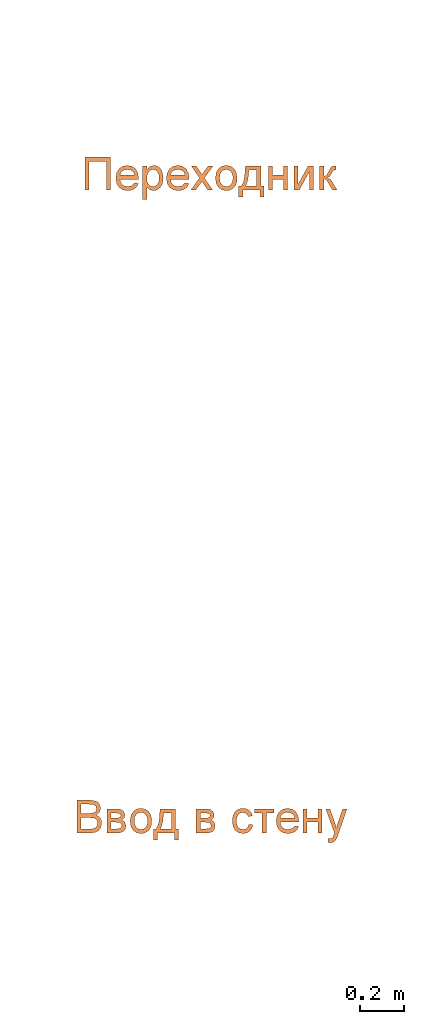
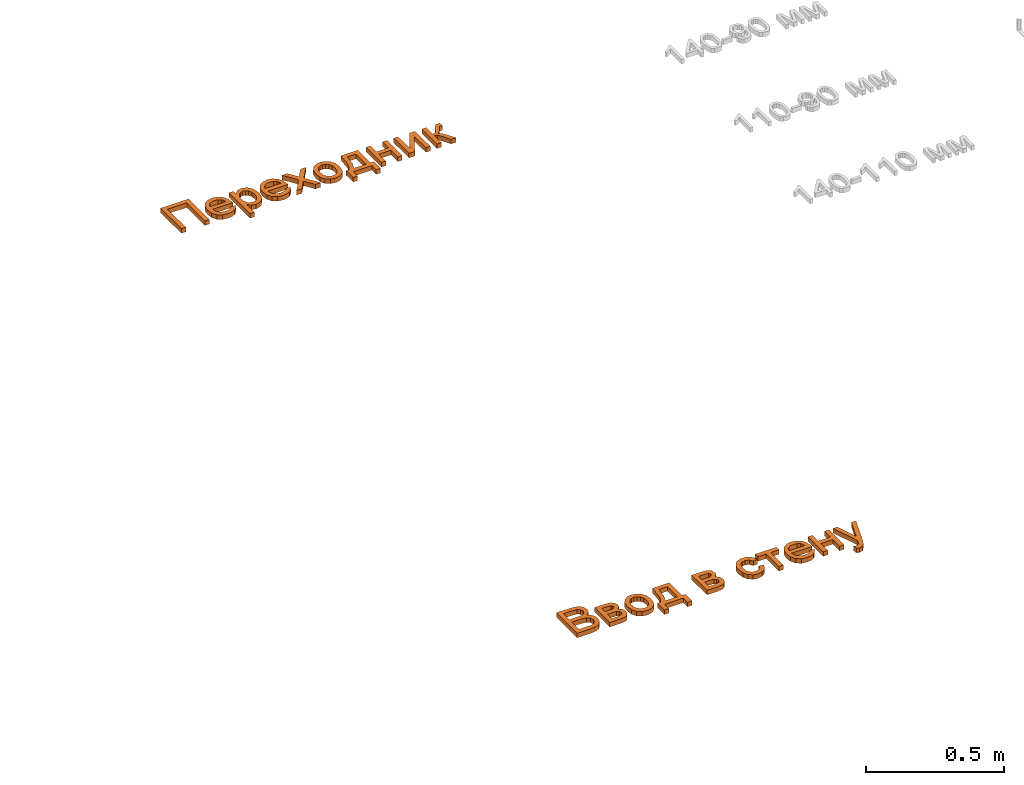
# One storey, part 21 of 87: 2 proxies.
"""IFC2X3 building model written with IfcOpenShell, lengths in millimetres."""

from ifc_helpers import new_model, entity, si_unit, converted_unit, derived_unit, direction, frame, origin, place, context, subcontext, project, spatial, polyline, outline, extrude, element, save


model = new_model("IFC2X3")

# Units and contexts
model_context = context("Model", 3, precision=0.01, world=origin(), true_north=direction((6.12303176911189e-17, 1.0)))
body_context = subcontext(model_context, "Body", "Model", "MODEL_VIEW")
ifc_project = project(units=[si_unit("LENGTHUNIT", "METRE", prefix="MILLI"), si_unit("AREAUNIT", "SQUARE_METRE"), si_unit("VOLUMEUNIT", "CUBIC_METRE"), converted_unit("PLANEANGLEUNIT", "DEGREE", entity("IfcRatioMeasure", 0.0174532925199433), si_unit("PLANEANGLEUNIT", "RADIAN"), dimensions=[0, 0, 0, 0, 0, 0, 0]), si_unit("MASSUNIT", "GRAM", prefix="KILO"), derived_unit("MASSDENSITYUNIT", [(si_unit("MASSUNIT", "GRAM", prefix="KILO"), 1), (si_unit("LENGTHUNIT", "METRE"), -3)]), si_unit("TIMEUNIT", "SECOND"), si_unit("FREQUENCYUNIT", "HERTZ"), si_unit("THERMODYNAMICTEMPERATUREUNIT", "DEGREE_CELSIUS"), derived_unit("THERMALTRANSMITTANCEUNIT", [(si_unit("MASSUNIT", "GRAM", prefix="KILO"), 1), (si_unit("THERMODYNAMICTEMPERATUREUNIT", "KELVIN"), -1), (si_unit("TIMEUNIT", "SECOND"), -3)]), derived_unit("VOLUMETRICFLOWRATEUNIT", [(si_unit("LENGTHUNIT", "METRE"), 3), (si_unit("TIMEUNIT", "SECOND"), -1)]), si_unit("ELECTRICCURRENTUNIT", "AMPERE"), si_unit("ELECTRICVOLTAGEUNIT", "VOLT"), si_unit("POWERUNIT", "WATT"), si_unit("FORCEUNIT", "NEWTON", prefix="KILO"), si_unit("ILLUMINANCEUNIT", "LUX"), si_unit("LUMINOUSFLUXUNIT", "LUMEN"), si_unit("LUMINOUSINTENSITYUNIT", "CANDELA"), derived_unit("USERDEFINED", [(si_unit("MASSUNIT", "GRAM", prefix="KILO"), -1), (si_unit("LENGTHUNIT", "METRE"), -2), (si_unit("TIMEUNIT", "SECOND"), 3), (si_unit("LUMINOUSFLUXUNIT", "LUMEN"), 1)]), derived_unit("LINEARVELOCITYUNIT", [(si_unit("LENGTHUNIT", "METRE"), 1), (si_unit("TIMEUNIT", "SECOND"), -1)]), si_unit("PRESSUREUNIT", "PASCAL"), derived_unit("USERDEFINED", [(si_unit("LENGTHUNIT", "METRE"), -2), (si_unit("MASSUNIT", "GRAM", prefix="KILO"), 1), (si_unit("TIMEUNIT", "SECOND"), -2)])], contexts=[model_context])

# Site, building, storey
site_placement = place(None, origin())
site = spatial("IfcSite", under=ifc_project, at=site_placement, Name="Default", CompositionType="ELEMENT")
building_placement = place(site_placement, origin())
building = spatial("IfcBuilding", under=site, at=building_placement, Name="Наименование здания", CompositionType="ELEMENT")
storey_placement = place(building_placement, origin())
storey = spatial("IfcBuildingStorey", under=building, at=storey_placement, Name="Этаж 01", CompositionType="ELEMENT", Elevation=0.0)

# Proxies
proxy_1_placement = place(storey_placement, origin())
element("IfcBuildingElementProxy", 1, at=proxy_1_placement, inside=storey, Name="Текст модели:150 мм Arial", ObjectType="Текст модели:150 мм Arial", context=body_context, shape_type="SweptSolid", body=[
    extrude(outline(polyline([(-80.0511221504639, -58.8611192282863), (70.6333430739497, -58.8611192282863), (70.6333430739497, -40.0255610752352), (-61.2155639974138, -40.0255610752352), (-61.2155639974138, 40.0255610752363), (70.6333430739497, 40.0255610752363), (70.6333430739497, 58.8611192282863), (-80.0511221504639, 58.8611192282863), (-80.0511221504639, -58.8611192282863)])), frame((9730.96561455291, -29155.4056663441, 0.0), z_axis=(0.0, 0.0, 1.0), x_axis=(0.0, -1.0, 0.0)), (0.0, 0.0, 1.0), 20.0),
    extrude(outline(polyline([(-12.151923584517, -30.5627594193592), (-23.3028322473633, -45.4710024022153), (-8.67600558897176, -50.3662606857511), (6.18277634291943, -49.9698260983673), (20.8164252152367, -44.1721168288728), (34.7678526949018, -32.8635510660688), (47.4570640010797, -14.3885693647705), (51.2430729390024, 5.61202992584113), (45.9060763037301, 25.8663302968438), (31.2262708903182, 45.1024152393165), (10.9154740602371, 59.6770093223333), (-9.99269287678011, 64.6676720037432), (-29.9463894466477, 60.6331852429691), (-47.3937751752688, 48.1323309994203), (-58.8653278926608, 30.7635073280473), (-61.9660241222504, 11.0147969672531), (-56.1560561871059, -9.52443743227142), (-40.8956164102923, -29.2648332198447), (-37.1706876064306, -32.7160206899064), (21.6964908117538, 28.1133970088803), (29.5607979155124, 15.9656989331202), (31.7422008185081, 3.31507577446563), (28.720812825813, -8.97205129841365), (20.9767472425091, -20.0292611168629), (5.30526907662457, -30.5627594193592), (-12.151923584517, -30.5627594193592)]), holes=[polyline([(8.16121838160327, 41.2120477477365), (-37.6840592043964, -6.16140575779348), (-43.0633748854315, 2.58957596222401), (-44.7058228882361, 11.1286426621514), (-41.8277013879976, 23.6248066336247), (-33.8073361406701, 35.0865524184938), (-23.712271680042, 42.9855035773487), (-12.6145549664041, 46.855297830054), (-1.62109020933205, 46.3720932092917), (8.16121838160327, 41.2120477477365)])]), frame((9867.49729154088, -29180.5551831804, 0.0), z_axis=(0.0, 0.0, -1.0), x_axis=(-0.695421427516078, -0.718602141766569, 0.0)), (0.0, 0.0, -1.0), 20.0),
    extrude(outline(polyline([(-51.3898957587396, -92.550372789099), (-32.5543376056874, -92.550372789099), (-32.5543376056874, -35.4550871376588), (-20.616566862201, -47.687163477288), (-4.22742397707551, -52.5248117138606), (7.98165973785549, -50.717591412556), (19.5929352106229, -45.2959305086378), (29.562537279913, -36.4851567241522), (36.8466007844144, -24.5105977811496), (41.3025714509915, -10.1034191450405), (42.7878950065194, 6.00521371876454), (37.5271824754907, 35.0311031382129), (30.9972770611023, 46.7849328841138), (21.9289858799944, 55.5589184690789), (10.7913584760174, 61.0219660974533), (-1.94655560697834, 62.8429819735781), (-19.531314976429, 57.6374517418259), (-32.5543376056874, 42.0208610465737), (-32.5543376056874, 60.4885372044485), (-51.3898957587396, 60.4885372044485), (-51.3898957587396, -92.550372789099)]), holes=[polyline([(-32.5543376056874, 4.27616834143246), (-30.3792353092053, 21.3596884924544), (-23.853928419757, 33.83548665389), (-14.5051272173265, 41.4644395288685), (-3.85954198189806, 44.0074238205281), (6.74465652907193, 41.6161908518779), (15.7485683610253, 34.4424919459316), (21.9013947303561, 22.4679330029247), (23.9523368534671, 5.67411992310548), (21.8508109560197, -11.8462600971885), (15.5462332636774, -24.0875334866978), (6.29859960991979, -31.2888235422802), (-4.63209417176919, -33.6892535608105), (-15.3880440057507, -31.3715969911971), (-24.4057514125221, -24.4186272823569), (-30.5171910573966, -12.6096152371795), (-32.5543376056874, 4.27616834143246)])]), frame((9987.19220522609, -29175.8686424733, 0.0)), (0.0, 0.0, 1.0), 20.0),
    extrude(outline(polyline([(-12.151923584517, -30.5627594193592), (-23.3028322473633, -45.4710024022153), (-8.67600558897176, -50.3662606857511), (6.18277634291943, -49.9698260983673), (20.8164252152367, -44.1721168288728), (34.7678526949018, -32.8635510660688), (47.4570640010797, -14.3885693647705), (51.2430729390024, 5.61202992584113), (45.9060763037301, 25.8663302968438), (31.2262708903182, 45.1024152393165), (10.9154740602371, 59.6770093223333), (-9.99269287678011, 64.6676720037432), (-29.9463894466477, 60.6331852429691), (-47.3937751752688, 48.1323309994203), (-58.8653278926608, 30.7635073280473), (-61.9660241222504, 11.0147969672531), (-56.1560561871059, -9.52443743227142), (-40.8956164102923, -29.2648332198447), (-37.1706876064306, -32.7160206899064), (21.6964908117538, 28.1133970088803), (29.5607979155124, 15.9656989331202), (31.7422008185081, 3.31507577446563), (28.7208128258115, -8.9720512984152), (20.9767472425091, -20.0292611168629), (5.30526907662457, -30.5627594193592), (-12.151923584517, -30.5627594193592)]), holes=[polyline([(8.16121838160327, 41.2120477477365), (-37.6840592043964, -6.16140575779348), (-43.0633748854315, 2.58957596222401), (-44.7058228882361, 11.1286426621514), (-41.8277013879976, 23.6248066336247), (-33.8073361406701, 35.0865524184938), (-23.712271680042, 42.9855035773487), (-12.6145549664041, 46.855297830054), (-1.62109020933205, 46.3720932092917), (8.16121838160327, 41.2120477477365)])]), frame((10098.2328789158, -29180.5551831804, 0.0), z_axis=(0.0, 0.0, -1.0), x_axis=(-0.695421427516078, -0.718602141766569, 0.0)), (0.0, 0.0, -1.0), 20.0),
    extrude(outline(polyline([(-51.7953323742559, -57.6397510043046), (-29.1338014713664, -57.6397510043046), (-0.512582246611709, -18.0924365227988), (3.71806069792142, -24.1992776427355), (26.7842617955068, -57.6397510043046), (49.4457926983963, -57.6397510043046), (11.1124888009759, -2.01599333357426), (50.9173206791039, 53.0191531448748), (28.2557897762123, 53.0191531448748), (7.43366884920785, 24.2507811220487), (0.0392407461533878, 14.0236616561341), (-8.49562154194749, 26.5316494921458), (-26.7793567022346, 53.0191531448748), (-49.4408876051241, 53.0191531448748), (-11.5490421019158, -2.01599333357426), (-51.7953323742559, -57.6397510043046)])), frame((10206.5610053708, -29168.3992584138, 0.0)), (0.0, 0.0, 1.0), 20.0),
    extrude(outline(polyline([(-11.1946000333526, -52.2426443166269), (13.725617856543, -52.2426443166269), (33.0962748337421, -44.5759588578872), (46.3022849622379, -30.4665992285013), (52.728562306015, -11.1385767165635), (52.8795704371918, 2.26160042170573), (49.5396030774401, 15.0586597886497), (42.9102470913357, 26.3612191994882), (33.1930893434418, 35.2778964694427), (19.4724914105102, 41.8007990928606), (0.832814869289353, 45.9220345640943), (-22.876235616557, 45.7172545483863), (-41.893061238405, 37.8901775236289), (-55.1425891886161, 23.7682718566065), (-61.5497466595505, 4.67900591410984), (-60.9951142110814, -13.651543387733), (-53.9645370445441, -29.8701936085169), (-37.0646721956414, -44.5487589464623), (-11.1946000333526, -52.2426443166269)]), holes=[polyline([(-8.64857835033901, -33.5799173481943), (-25.2263685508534, -29.0848574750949), (-36.3325046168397, -20.9461821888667), (-42.1575488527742, -10.2052592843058), (-42.8920635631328, 2.09654344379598), (-38.8516378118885, 13.6120893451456), (-30.3014219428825, 22.3586496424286), (-17.5331679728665, 27.2345846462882), (-0.838627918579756, 27.1382546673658), (16.1172354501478, 22.5908646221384), (27.4101305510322, 14.4263394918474), (33.3060231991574, 3.69417972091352), (34.0708792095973, -8.55611424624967), (30.0134303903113, -20.1946478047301), (21.4625840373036, -28.9457632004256), (8.53602088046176, -33.7580048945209), (-8.64857835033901, -33.5799173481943)])]), frame((10321.0631522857, -29174.6356757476, 0.0), z_axis=(0.0, 0.0, 1.0), x_axis=(0.137105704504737, -0.990556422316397, 0.0)), (0.0, 0.0, 1.0), 20.0),
    extrude(outline(polyline([(-89.8120245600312, 30.1307985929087), (-95.2116329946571, -40.2958539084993), (-3.65698474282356, -47.3153448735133), (-4.73690642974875, -61.4006753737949), (44.5617503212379, -65.1804012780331), (46.0016459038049, -46.3999606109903), (15.4834298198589, -44.0601302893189), (21.4229990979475, 33.409187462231), (51.9412151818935, 31.0693571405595), (53.3811107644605, 49.8497978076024), (4.08245401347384, 53.6295237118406), (3.18251927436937, 41.8917482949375), (-12.8912765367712, 34.5411547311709), (-33.7482991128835, 30.1307985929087), (-89.8120245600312, 30.1307985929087)]), holes=[polyline([(-72.2914925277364, 12.2580174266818), (-29.1661575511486, 13.3791398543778), (1.56263674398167, 20.7637525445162), (-2.21708916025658, -28.5349042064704), (-74.9912967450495, -22.9553088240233), (-72.2914925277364, 12.2580174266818)])]), frame((10427.5137126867, -29207.232684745, 0.0), z_axis=(0.0, 0.0, -1.0), x_axis=(-0.0764456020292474, -0.997073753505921, 0.0)), (0.0, 0.0, -1.0), 20.0),
    extrude(outline(polyline([(-54.1522296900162, -43.5572282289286), (56.5066744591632, -43.5572282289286), (56.5066744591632, -24.7216700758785), (7.0633343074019, -24.7216700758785), (7.0633343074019, 24.7216700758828), (56.5066744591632, 24.7216700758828), (56.5066744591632, 43.5572282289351), (-54.1522296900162, 43.5572282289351), (-54.1522296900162, 24.7216700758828), (-11.7722238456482, 24.7216700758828), (-11.7722238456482, -24.7216700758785), (-54.1522296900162, -24.7216700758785), (-54.1522296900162, -43.5572282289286)])), frame((10553.8440613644, -29169.5323349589, 0.0), z_axis=(0.0, 0.0, 1.0), x_axis=(0.0, -1.0, 0.0)), (0.0, 0.0, 1.0), 20.0),
    extrude(outline(polyline([(-55.3809555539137, -44.7638811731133), (55.2779485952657, -44.7638811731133), (55.2779485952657, -20.1157874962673), (-28.599146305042, 25.8694619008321), (55.2779485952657, 25.8694619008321), (55.2779485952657, 44.7050200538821), (-55.3809555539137, 44.7050200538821), (-55.3809555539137, 20.3512319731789), (29.0111741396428, -25.9283230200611), (-55.3809555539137, -25.9283230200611), (-55.3809555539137, -44.7638811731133)])), frame((10670.418507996, -29170.7610608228, 0.0), z_axis=(0.0, 0.0, 1.0), x_axis=(0.0, -1.0, 0.0)), (0.0, 0.0, 1.0), 20.0),
    extrude(outline(polyline([(-45.4943568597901, -44.3029556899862), (65.1645472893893, -44.3029556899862), (65.1645472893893, -25.4673975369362), (13.3667623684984, -25.4673975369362), (16.8432472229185, -15.3506426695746), (31.2090391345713, -5.41782879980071), (65.1645472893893, 14.3374343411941), (65.1645472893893, 35.748166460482), (30.4732751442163, 15.5882331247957), (15.0314283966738, 3.9263738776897), (7.70137964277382, -7.95621456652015), (1.13468602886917, 2.69396919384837), (-12.274612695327, 10.2907323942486), (-24.6722359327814, 16.7654555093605), (-26.6587987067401, 25.9625053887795), (-26.5484341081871, 31.0392769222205), (-45.4943568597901, 31.0392769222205), (-45.4943568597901, 27.4340333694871), (-44.0596170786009, 13.6568526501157), (-38.5229930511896, 6.07848354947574), (-21.5084507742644, -2.51156103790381), (-1.78997583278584, -12.8490451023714), (1.59453852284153, -25.4673975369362), (-45.4943568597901, -25.4673975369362), (-45.4943568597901, -44.3029556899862)])), frame((10787.6798209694, -29160.8744621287, 0.0), z_axis=(0.0, 0.0, 1.0), x_axis=(0.0, -1.0, 0.0)), (0.0, 0.0, 1.0), 20.0),
])
proxy_2_placement = place(storey_placement, origin())
element("IfcBuildingElementProxy", 2, at=proxy_2_placement, inside=storey, Name="Текст модели:150 мм Arial", ObjectType="Текст модели:150 мм Arial", context=body_context, shape_type="SweptSolid", body=[
    extrude(outline(polyline([(-83.1819061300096, -76.323341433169), (-26.1234086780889, -76.323341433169), (-1.97195569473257, -73.7297733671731), (14.417187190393, -66.0778278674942), (25.3984647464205, -51.6568536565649), (29.8314427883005, -31.4049498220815), (28.2081634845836, -18.7957944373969), (23.3383255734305, -7.97086672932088), (15.4518553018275, 0.508813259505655), (4.77867891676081, 6.08222548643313), (20.0641758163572, 19.4179478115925), (25.122553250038, 37.0211012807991), (19.1076826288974, 56.2981178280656), (11.9431807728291, 64.3041497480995), (2.4794164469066, 69.9281457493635), (-25.6819502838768, 74.3611237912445), (-83.1819061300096, 74.3611237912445), (-83.1819061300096, -76.323341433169)]), holes=[polyline([(-64.3463479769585, 13.1455597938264), (-64.3463479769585, 55.5255656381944), (-32.5613435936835, 55.5255656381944), (-8.35470831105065, 53.557396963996), (2.49781054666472, 46.291727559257), (6.28699509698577, 34.0044689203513), (2.22189905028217, 21.7356043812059), (-9.86302449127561, 14.7642405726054), (-29.9493814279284, 13.1455597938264), (-64.3463479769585, 13.1455597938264)]), polyline([(-64.3463479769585, -57.487783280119), (-64.3463479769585, -5.68999835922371), (-27.5581484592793, -5.68999835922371), (-4.28961226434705, -8.2099900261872), (7.39064108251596, -16.947187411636), (10.9958846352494, -31.5888908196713), (7.92406997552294, -44.2808196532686), (0.0881834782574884, -52.6501350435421), (-11.7392226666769, -56.7520192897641), (-25.7187384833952, -57.487783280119), (-64.3463479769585, -57.487783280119)])]), frame((9719.18946756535, -32083.4680139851, 0.0)), (0.0, 0.0, 1.0), 20.0),
    extrude(outline(polyline([(-56.9428773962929, -61.1019147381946), (53.7160267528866, -61.1019147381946), (53.7160267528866, -13.2404671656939), (51.7202669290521, 3.22225211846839), (45.7329874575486, 15.2335992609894), (35.6254296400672, 22.8211654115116), (21.2688347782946, 26.012541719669), (3.51852851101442, 20.9725583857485), (-6.6901968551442, 8.31741775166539), (-16.0160054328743, 18.0662906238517), (-29.0942103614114, 21.3036521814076), (-45.189047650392, 15.950969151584), (-54.4228857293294, 3.1486757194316), (-56.9428773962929, -19.6048256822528), (-56.9428773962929, -61.1019147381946)]), holes=[polyline([(-14.5628715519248, -42.2663565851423), (-38.1073192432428, -42.2663565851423), (-38.1073192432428, -23.0629164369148), (-35.4953570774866, -3.30765329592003), (-31.880916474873, 1.02415719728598), (-26.2615189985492, 2.46809402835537), (-19.3453374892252, -0.824449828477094), (-15.5193647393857, -8.29245433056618), (-14.5628715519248, -23.6515276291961), (-14.5628715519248, -42.2663565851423)]), polyline([(34.8804685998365, -42.2663565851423), (4.27268660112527, -42.2663565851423), (4.27268660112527, -21.0027772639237), (5.37633258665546, -4.4296933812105), (10.6554392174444, 3.95801610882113), (19.7237303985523, 7.17698356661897), (26.837648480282, 5.56749983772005), (31.4775601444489, 1.32765984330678), (34.8804685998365, -19.1633672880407), (34.8804685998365, -42.2663565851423)])]), frame((9833.66727278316, -32106.0753286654, 0.0), z_axis=(0.0, 0.0, 1.0), x_axis=(0.0, -1.0, 0.0)), (0.0, 0.0, 1.0), 20.0),
    extrude(outline(polyline([(-11.1946000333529, -52.242644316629), (13.7256178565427, -52.242644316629), (33.0962748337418, -44.5759588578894), (46.3022849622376, -30.4665992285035), (52.7285623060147, -11.1385767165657), (52.8795704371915, 2.26160042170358), (49.5396030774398, 15.0586597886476), (42.9102470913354, 26.361219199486), (33.1930893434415, 35.2778964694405), (19.4724914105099, 41.8007990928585), (0.832814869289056, 45.9220345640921), (-22.8762356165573, 45.7172545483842), (-41.8930612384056, 37.8901775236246), (-55.1425891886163, 23.7682718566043), (-61.5497466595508, 4.6790059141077), (-60.9951142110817, -13.6515433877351), (-53.9645370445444, -29.870193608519), (-37.0646721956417, -44.5487589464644), (-11.1946000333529, -52.242644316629)]), holes=[polyline([(-8.6485783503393, -33.5799173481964), (-25.2263685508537, -29.084857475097), (-36.33250461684, -20.9461821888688), (-42.1575488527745, -10.2052592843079), (-42.8920635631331, 2.09654344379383), (-38.8516378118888, 13.6120893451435), (-30.3014219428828, 22.3586496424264), (-17.5331679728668, 27.234584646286), (-0.838627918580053, 27.1382546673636), (16.1172354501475, 22.5908646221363), (27.4101305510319, 14.4263394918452), (33.3060231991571, 3.69417972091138), (34.070879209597, -8.55611424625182), (30.013430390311, -20.1946478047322), (21.4625840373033, -28.9457632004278), (8.53602088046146, -33.758004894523), (-8.6485783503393, -33.5799173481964)])]), frame((9931.79950302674, -32108.3880217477, 0.0), z_axis=(0.0, 0.0, 1.0), x_axis=(0.137105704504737, -0.990556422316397, 0.0)), (0.0, 0.0, 1.0), 20.0),
    extrude(outline(polyline([(-89.8120245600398, 30.1307985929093), (-95.211632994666, -40.2958539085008), (-3.65698474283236, -47.3153448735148), (-4.73690642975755, -61.4006753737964), (44.5617503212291, -65.1804012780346), (46.0016459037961, -46.3999606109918), (15.4834298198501, -44.0601302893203), (21.4229990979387, 33.4091874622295), (51.9412151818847, 31.069357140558), (53.3811107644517, 49.8497978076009), (4.08245401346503, 53.6295237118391), (3.18251927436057, 41.891748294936), (-12.89127653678, 34.5411547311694), (-33.7482991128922, 30.1307985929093), (-89.8120245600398, 30.1307985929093)]), holes=[polyline([(-72.2914925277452, 12.2580174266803), (-29.1661575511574, 13.3791398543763), (1.56263674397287, 20.7637525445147), (-2.21708916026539, -28.534904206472), (-74.9912967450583, -22.9553088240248), (-72.2914925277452, 12.2580174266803)])]), frame((10038.2500634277, -32140.9850307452, 0.0), z_axis=(0.0, 0.0, -1.0), x_axis=(-0.0764456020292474, -0.997073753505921, 0.0)), (0.0, 0.0, -1.0), 20.0),
    extrude(outline(polyline([(-56.9428773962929, -61.1019147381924), (53.7160267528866, -61.1019147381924), (53.7160267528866, -13.2404671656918), (51.7202669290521, 3.22225211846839), (45.7329874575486, 15.2335992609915), (35.6254296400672, 22.8211654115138), (21.2688347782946, 26.0125417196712), (3.51852851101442, 20.9725583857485), (-6.6901968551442, 8.31741775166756), (-16.0160054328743, 18.0662906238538), (-29.0942103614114, 21.3036521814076), (-45.189047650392, 15.9509691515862), (-54.4228857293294, 3.14867571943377), (-56.9428773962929, -19.6048256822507), (-56.9428773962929, -61.1019147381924)]), holes=[polyline([(-14.5628715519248, -42.2663565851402), (-38.1073192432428, -42.2663565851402), (-38.1073192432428, -23.0629164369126), (-35.4953570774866, -3.30765329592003), (-31.880916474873, 1.02415719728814), (-26.2615189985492, 2.46809402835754), (-19.3453374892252, -0.824449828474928), (-15.5193647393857, -8.29245433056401), (-14.5628715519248, -23.6515276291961), (-14.5628715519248, -42.2663565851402)]), polyline([(34.8804685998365, -42.2663565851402), (4.27268660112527, -42.2663565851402), (4.27268660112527, -21.0027772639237), (5.37633258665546, -4.42969338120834), (10.6554392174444, 3.9580161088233), (19.7237303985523, 7.17698356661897), (26.837648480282, 5.56749983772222), (31.4775601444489, 1.32765984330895), (34.8804685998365, -19.1633672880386), (34.8804685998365, -42.2663565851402)])]), frame((10240.9862178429, -32106.0753286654, 0.0), z_axis=(0.0, 0.0, 1.0), x_axis=(0.0, -1.0, 0.0)), (0.0, 0.0, 1.0), 20.0),
    extrude(outline(polyline([(6.77218430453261, -32.6880162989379), (3.47919135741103, -51.3823432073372), (21.0352248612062, -51.2935104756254), (36.0385414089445, -45.5877688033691), (47.6356474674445, -34.9742466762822), (54.9730495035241, -20.1620725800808), (57.331557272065, 0.0758389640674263), (51.32865972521, 18.3174486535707), (37.0810593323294, 33.2854261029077), (14.7054585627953, 43.7024409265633), (-1.73746788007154, 47.2596707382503), (-16.8916566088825, 47.4079950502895), (-30.2412319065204, 43.9163864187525), (-41.2703180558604, 36.5538173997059), (-49.6896409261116, 26.2753303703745), (-55.2099263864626, 14.0359677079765), (-57.6963038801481, -1.85137033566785), (-54.8486013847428, -16.0419747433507), (-46.8993177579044, -28.0408309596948), (-34.0809518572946, -37.3529244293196), (-26.287601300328, -20.0443904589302), (-37.1997991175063, -7.54215198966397), (-37.2518019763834, 8.35215978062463), (-31.4457718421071, 19.3006318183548), (-21.9310317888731, 26.4799459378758), (-8.59621128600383, 28.9704724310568), (8.67006019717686, 25.852581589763), (24.9370752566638, 18.6926998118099), (34.6412636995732, 9.25213062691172), (38.4812527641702, -1.85665774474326), (37.1556696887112, -14.0211970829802), (32.9052994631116, -22.917798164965), (26.4119100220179, -29.2856740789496), (17.6945290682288, -32.6880162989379), (6.77218430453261, -32.6880162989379)])), frame((10390.7902394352, -32103.6736620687, 0.0), z_axis=(0.0, 0.0, -1.0), x_axis=(-0.294292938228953, -0.95571526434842, 0.0)), (0.0, 0.0, -1.0), 20.0),
    extrude(outline(polyline([(-37.0825051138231, -44.7344506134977), (-18.2469469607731, -44.7344506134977), (-18.2469469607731, -9.41777907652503), (73.5763990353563, -9.41777907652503), (73.5763990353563, 9.4177790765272), (-18.2469469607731, 9.4177790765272), (-18.2469469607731, 44.7344506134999), (-37.0825051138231, 44.7344506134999), (-37.0825051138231, -44.7344506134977)])), frame((10490.6710126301, -32086.2149563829, 0.0), z_axis=(0.0, 0.0, 1.0), x_axis=(0.0, -1.0, 0.0)), (0.0, 0.0, 1.0), 20.0),
    extrude(outline(polyline([(-12.1519235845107, -30.5627594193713), (-23.302832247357, -45.4710024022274), (-8.67600558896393, -50.3662606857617), (6.18277634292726, -49.9698260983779), (20.8164252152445, -44.1721168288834), (34.7678526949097, -32.8635510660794), (47.4570640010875, -14.3885693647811), (51.2430729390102, 5.61202992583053), (45.9060763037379, 25.8663302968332), (31.226270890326, 45.1024152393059), (10.915474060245, 59.6770093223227), (-9.99269287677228, 64.6676720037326), (-29.9463894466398, 60.6331852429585), (-47.3937751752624, 48.1323309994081), (-58.8653278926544, 30.7635073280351), (-61.9660241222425, 11.0147969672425), (-56.1560561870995, -9.52443743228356), (-40.8956164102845, -29.2648332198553), (-37.1706876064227, -32.7160206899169), (21.6964908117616, 28.1133970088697), (29.5607979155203, 15.9656989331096), (31.7422008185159, 3.31507577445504), (28.7208128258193, -8.9720512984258), (20.9767472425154, -20.029261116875), (5.30526907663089, -30.5627594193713), (-12.1519235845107, -30.5627594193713)]), holes=[polyline([(8.1612183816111, 41.2120477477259), (-37.6840592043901, -6.16140575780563), (-43.0633748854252, 2.58957596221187), (-44.7058228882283, 11.1286426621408), (-41.8277013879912, 23.6248066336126), (-33.8073361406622, 35.0865524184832), (-23.7122716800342, 42.9855035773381), (-12.6145549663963, 46.8552978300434), (-1.62109020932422, 46.3720932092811), (8.1612183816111, 41.2120477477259)])]), frame((10598.9493523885, -32114.3075291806, 0.0), z_axis=(0.0, 0.0, -1.0), x_axis=(-0.695421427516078, -0.718602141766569, 0.0)), (0.0, 0.0, -1.0), 20.0),
    extrude(outline(polyline([(-54.1522296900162, -43.5572282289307), (56.5066744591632, -43.5572282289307), (56.5066744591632, -24.7216700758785), (7.0633343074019, -24.7216700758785), (7.0633343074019, 24.7216700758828), (56.5066744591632, 24.7216700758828), (56.5066744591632, 43.5572282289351), (-54.1522296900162, 43.5572282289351), (-54.1522296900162, 24.7216700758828), (-11.7722238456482, 24.7216700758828), (-11.7722238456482, -24.7216700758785), (-54.1522296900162, -24.7216700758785), (-54.1522296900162, -43.5572282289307)])), frame((10710.8115985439, -32103.2846809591, 0.0), z_axis=(0.0, 0.0, 1.0), x_axis=(0.0, -1.0, 0.0)), (0.0, 0.0, 1.0), 20.0),
    extrude(outline(polyline([(-14.0627784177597, -63.6897846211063), (-2.3098266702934, -63.6897846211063), (11.2235996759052, -56.6043892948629), (19.2677475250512, -41.4042581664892), (24.1483344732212, -15.3233337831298), (39.1861017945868, 103.403530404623), (19.8673420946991, 99.4533686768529), (11.376405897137, 32.0809099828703), (8.47999679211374, 9.33454668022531), (-3.68750084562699, 31.9296007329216), (-36.7914083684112, 87.8681928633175), (-56.2543379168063, 83.8885523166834), (5.04686591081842, -16.1124679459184), (4.51901081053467, -20.876521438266), (2.25144479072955, -35.4962883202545), (-1.95815357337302, -42.2710621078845), (-10.3000835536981, -46.0982994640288), (-20.0027604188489, -46.3925118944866), (-14.0627784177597, -63.6897846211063)])), frame((10809.1587185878, -32142.5898064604, 0.0), z_axis=(0.0, 0.0, 1.0), x_axis=(0.979728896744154, -0.200327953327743, 0.0)), (0.0, 0.0, 1.0), 20.0),
])

save(model, "model.ifc")
